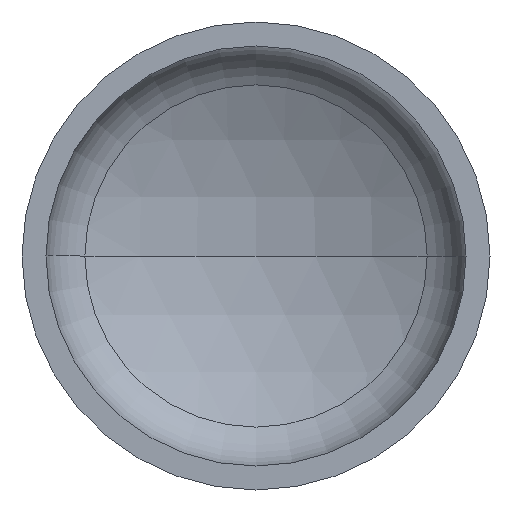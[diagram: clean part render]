
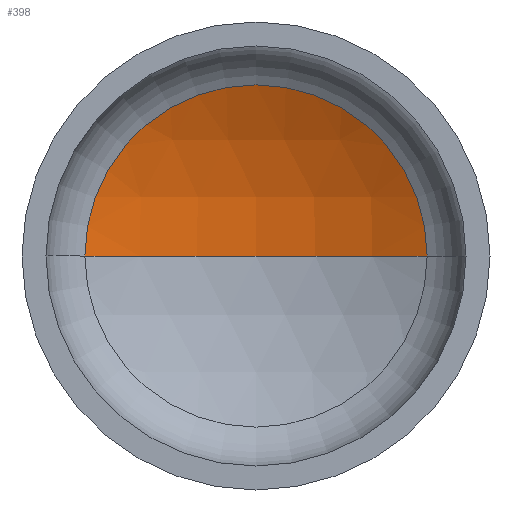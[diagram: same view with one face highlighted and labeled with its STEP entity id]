
A CAD part, front view. The second image highlights one B-rep face of the part: STEP entity #398.
In plain terms, the highlighted spherical face has radius 1280 mm.
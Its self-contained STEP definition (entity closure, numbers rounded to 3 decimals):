
#20 = AXIS2_PLACEMENT_3D ( 'NONE', #146, #147, #153 ) ;
#21 = AXIS2_PLACEMENT_3D ( 'NONE', #177, #172, #161 ) ;
#26 = AXIS2_PLACEMENT_3D ( 'NONE', #148, #280, #277 ) ;
#35 = SPHERICAL_SURFACE ( 'NONE', #133, 1280. ) ;
#40 = CARTESIAN_POINT ( 'NONE',  ( 0., 459.405, 0. ) ) ;
#53 = EDGE_CURVE ( 'NONE', #171, #346, #262, .T. ) ;
#55 = EDGE_CURVE ( 'NONE', #245, #171, #192, .T. ) ;
#56 = EDGE_CURVE ( 'NONE', #245, #346, #104, .T. ) ;
#104 = CIRCLE ( 'NONE', #20, 1280. ) ;
#133 = AXIS2_PLACEMENT_3D ( 'NONE', #222, #247, #189 ) ;
#138 = CARTESIAN_POINT ( 'NONE',  ( 584.966, 317.919, 0. ) ) ;
#146 = CARTESIAN_POINT ( 'NONE',  ( 0., -820.595, 0. ) ) ;
#147 = DIRECTION ( 'NONE',  ( 0., 0., 1. ) ) ;
#148 = CARTESIAN_POINT ( 'NONE',  ( 0., 317.919, 0. ) ) ;
#153 = DIRECTION ( 'NONE',  ( 1., 0., 0. ) ) ;
#161 = DIRECTION ( 'NONE',  ( -1., 0., 0. ) ) ;
#171 = VERTEX_POINT ( 'NONE', #138 ) ;
#172 = DIRECTION ( 'NONE',  ( 0., 0., -1. ) ) ;
#177 = CARTESIAN_POINT ( 'NONE',  ( 0., -820.595, 0. ) ) ;
#189 = DIRECTION ( 'NONE',  ( -1., 0., 0. ) ) ;
#192 = CIRCLE ( 'NONE', #21, 1280. ) ;
#213 = CARTESIAN_POINT ( 'NONE',  ( -584.966, 317.919, 0. ) ) ;
#222 = CARTESIAN_POINT ( 'NONE',  ( 0., -820.595, 0. ) ) ;
#227 = ORIENTED_EDGE ( 'NONE', *, *, #56, .F. ) ;
#237 = EDGE_LOOP ( 'NONE', ( #227, #358, #384 ) ) ;
#245 = VERTEX_POINT ( 'NONE', #40 ) ;
#247 = DIRECTION ( 'NONE',  ( 0., 0., -1. ) ) ;
#262 = CIRCLE ( 'NONE', #26, 584.966 ) ;
#277 = DIRECTION ( 'NONE',  ( 1., 0., 0. ) ) ;
#280 = DIRECTION ( 'NONE',  ( 0., -1., 0. ) ) ;
#345 = FACE_OUTER_BOUND ( 'NONE', #237, .T. ) ;
#346 = VERTEX_POINT ( 'NONE', #213 ) ;
#358 = ORIENTED_EDGE ( 'NONE', *, *, #55, .T. ) ;
#384 = ORIENTED_EDGE ( 'NONE', *, *, #53, .T. ) ;
#398 = ADVANCED_FACE ( 'NONE', ( #345 ), #35, .F. ) ;
